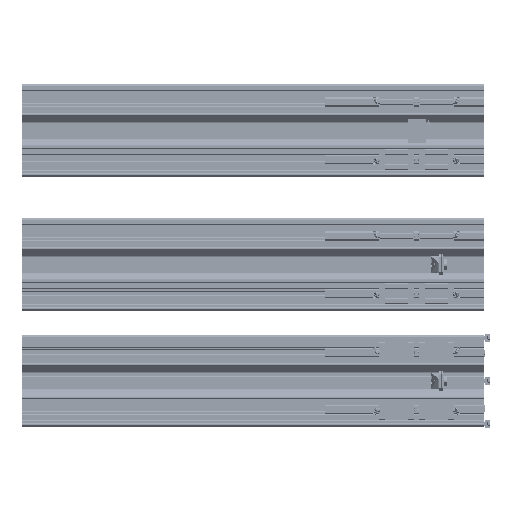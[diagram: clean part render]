
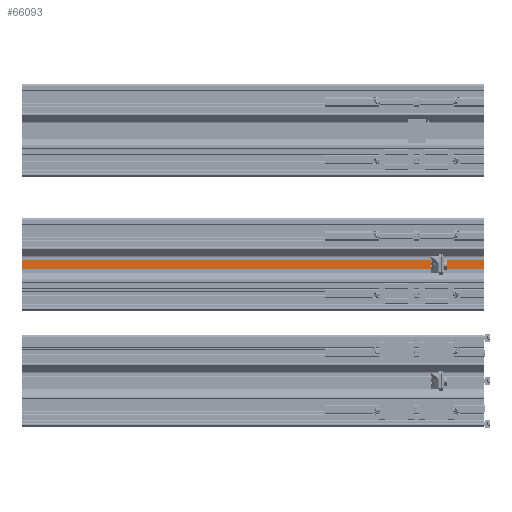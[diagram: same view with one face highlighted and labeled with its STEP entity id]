
A CAD part, left-side view. The second image highlights one B-rep face of the part: STEP entity #66093.
In plain terms, the highlighted free-form (B-spline) face has degree [2, 1] with [3, 2] control points.
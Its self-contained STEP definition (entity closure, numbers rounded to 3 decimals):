
#12409=(
BOUNDED_SURFACE()
B_SPLINE_SURFACE(2,1,((#855998,#855999),(#856000,#856001),(#856002,#856003)),
 .UNSPECIFIED.,.F.,.F.,.F.)
B_SPLINE_SURFACE_WITH_KNOTS((3,3),(2,2),(-834.66,-816.651),
(0.,1000.),.UNSPECIFIED.)
GEOMETRIC_REPRESENTATION_ITEM()
RATIONAL_B_SPLINE_SURFACE(((1.,1.),(1.,1.),(1.,1.)))
REPRESENTATION_ITEM('')
SURFACE()
);
#66093=ADVANCED_FACE('',(#95488),#12409,.T.);
#95488=FACE_OUTER_BOUND('',#124454,.T.);
#124454=EDGE_LOOP('',(#228049,#228050,#228051,#228052));
#228049=ORIENTED_EDGE('',*,*,#340073,.T.);
#228050=ORIENTED_EDGE('',*,*,#340074,.T.);
#228051=ORIENTED_EDGE('',*,*,#340075,.F.);
#228052=ORIENTED_EDGE('',*,*,#340071,.F.);
#340071=EDGE_CURVE('',#459627,#459628,#402355,.T.);
#340073=EDGE_CURVE('',#459627,#459629,#402357,.T.);
#340074=EDGE_CURVE('',#459629,#459630,#402358,.T.);
#340075=EDGE_CURVE('',#459628,#459630,#402359,.T.);
#402355=(
BOUNDED_CURVE()
B_SPLINE_CURVE(1,(#875899,#875900),.UNSPECIFIED.,.F.,.F.)
B_SPLINE_CURVE_WITH_KNOTS((2,2),(0.,1000.),.UNSPECIFIED.)
CURVE()
GEOMETRIC_REPRESENTATION_ITEM()
RATIONAL_B_SPLINE_CURVE((1.,1.))
REPRESENTATION_ITEM('')
);
#402357=(
BOUNDED_CURVE()
B_SPLINE_CURVE(2,(#875904,#875905,#875906),.UNSPECIFIED.,.F.,.F.)
B_SPLINE_CURVE_WITH_KNOTS((3,3),(-834.66,-816.651),
 .UNSPECIFIED.)
CURVE()
GEOMETRIC_REPRESENTATION_ITEM()
RATIONAL_B_SPLINE_CURVE((1.,1.,1.))
REPRESENTATION_ITEM('')
);
#402358=(
BOUNDED_CURVE()
B_SPLINE_CURVE(1,(#875907,#875908),.UNSPECIFIED.,.F.,.F.)
B_SPLINE_CURVE_WITH_KNOTS((2,2),(0.,1000.),.UNSPECIFIED.)
CURVE()
GEOMETRIC_REPRESENTATION_ITEM()
RATIONAL_B_SPLINE_CURVE((1.,1.))
REPRESENTATION_ITEM('')
);
#402359=(
BOUNDED_CURVE()
B_SPLINE_CURVE(2,(#875909,#875910,#875911),.UNSPECIFIED.,.F.,.F.)
B_SPLINE_CURVE_WITH_KNOTS((3,3),(-834.66,-816.651),
 .UNSPECIFIED.)
CURVE()
GEOMETRIC_REPRESENTATION_ITEM()
RATIONAL_B_SPLINE_CURVE((1.,1.,1.))
REPRESENTATION_ITEM('')
);
#459627=VERTEX_POINT('',#867458);
#459628=VERTEX_POINT('',#867459);
#459629=VERTEX_POINT('',#867460);
#459630=VERTEX_POINT('',#867461);
#855998=CARTESIAN_POINT('',(-76.309,-387.443,-44.099));
#855999=CARTESIAN_POINT('',(-76.309,612.557,-44.099));
#856000=CARTESIAN_POINT('',(-76.309,-387.443,-35.095));
#856001=CARTESIAN_POINT('',(-76.309,612.557,-35.095));
#856002=CARTESIAN_POINT('',(-76.309,-387.443,-26.09));
#856003=CARTESIAN_POINT('',(-76.309,612.557,-26.09));
#867458=CARTESIAN_POINT('',(-76.309,-387.443,-44.099));
#867459=CARTESIAN_POINT('',(-76.309,612.557,-44.099));
#867460=CARTESIAN_POINT('',(-76.309,-387.443,-26.09));
#867461=CARTESIAN_POINT('',(-76.309,612.557,-26.09));
#875899=CARTESIAN_POINT('',(-76.309,-387.443,-44.099));
#875900=CARTESIAN_POINT('',(-76.309,612.557,-44.099));
#875904=CARTESIAN_POINT('',(-76.309,-387.443,-44.099));
#875905=CARTESIAN_POINT('',(-76.309,-387.443,-35.095));
#875906=CARTESIAN_POINT('',(-76.309,-387.443,-26.09));
#875907=CARTESIAN_POINT('',(-76.309,-387.443,-26.09));
#875908=CARTESIAN_POINT('',(-76.309,612.557,-26.09));
#875909=CARTESIAN_POINT('',(-76.309,612.557,-44.099));
#875910=CARTESIAN_POINT('',(-76.309,612.557,-35.095));
#875911=CARTESIAN_POINT('',(-76.309,612.557,-26.09));
